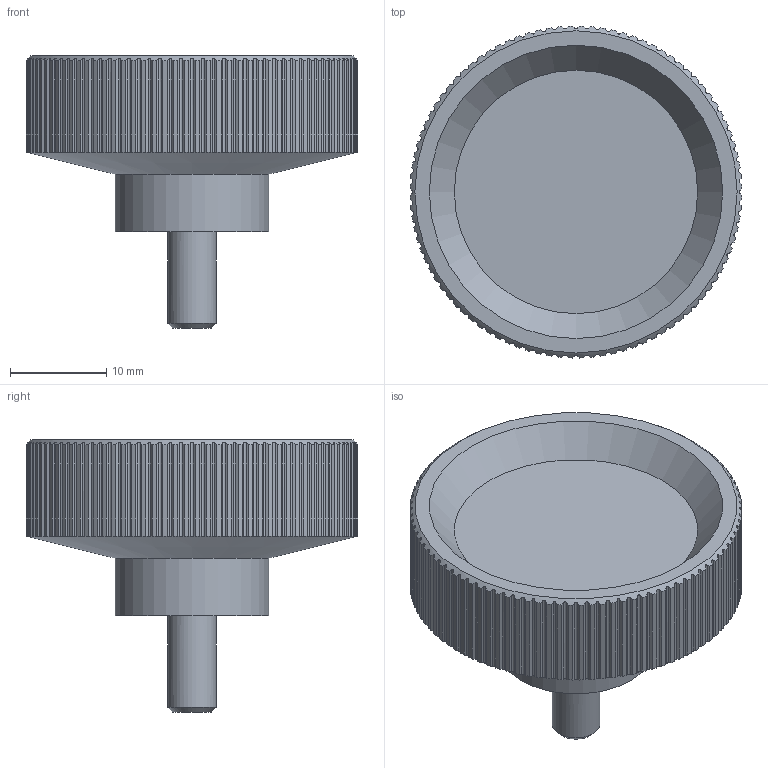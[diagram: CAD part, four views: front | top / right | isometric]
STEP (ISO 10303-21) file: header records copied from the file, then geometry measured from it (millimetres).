
FILE_DESCRIPTION( ('This file contains a STEP AP42 implementation' ,'as created by ZW3D STEP Interface translator.') ,'2;1' );
FILE_NAME( 'Pokretlo radelkowe 35 GZ.stp' ,'26 814.113243', (''), ('ZWCAD Software Co.'), 'Version 1.0', 'ZW3D to STEP translator', '' );
FILE_SCHEMA(('AP242_MANAGED_MODEL_BASED_3D_ENGINEERING_MIM_LF { 1 0 10303 442 1 1 4 }'));
Length unit declared in the file: millimetre
Products named in the file (1): 0
Bounding box: 34.49 x 34.49 x 28.3 mm (x, y, z)
Volume: 9944.6 mm3; surface area: 3985.3 mm2
Topology: 2 solids, 2 shells, 413 faces, 1224 edges, 822 vertices
Faces by surface type: plane 214, cylinder 195, cone 4
Full cylindrical faces by diameter (mm): 5 x2, 16 x1
Entity records: 14643 total; most frequent: CARTESIAN_POINT 4468, ORIENTED_EDGE 2438, DIRECTION 1693, EDGE_CURVE 1219, VERTEX_POINT 812, AXIS2_PLACEMENT_3D 633, VECTOR 427, LINE 427
